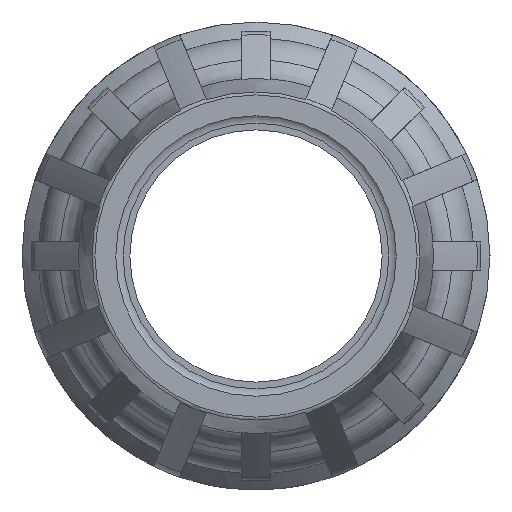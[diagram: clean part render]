
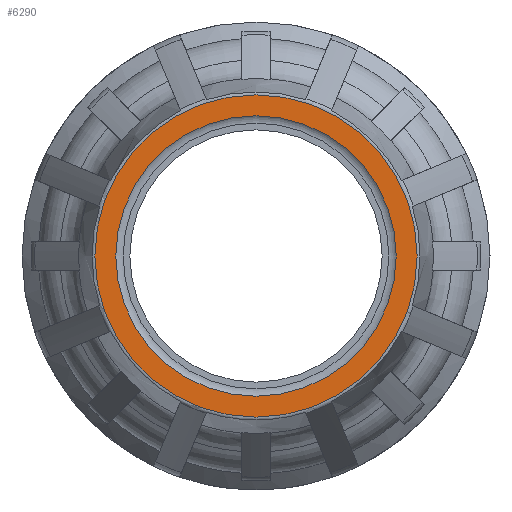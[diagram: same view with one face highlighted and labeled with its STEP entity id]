
A CAD part, left-side view. The second image highlights one B-rep face of the part: STEP entity #6290.
In plain terms, the highlighted planar face has unit normal (-1, 0, 0).
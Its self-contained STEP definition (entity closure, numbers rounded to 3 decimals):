
#90=PLANE('',#6960);
#2792=ORIENTED_EDGE('',*,*,#3977,.F.);
#2793=ORIENTED_EDGE('',*,*,#3994,.F.);
#3977=EDGE_CURVE('',#4711,#4711,#5048,.T.);
#3994=EDGE_CURVE('',#4712,#4712,#5065,.F.);
#4711=VERTEX_POINT('',#11957);
#4712=VERTEX_POINT('',#11992);
#5048=CIRCLE('',#6927,37.359);
#5065=CIRCLE('',#6961,32.5);
#5419=EDGE_LOOP('',(#2792));
#5420=EDGE_LOOP('',(#2793));
#5827=FACE_BOUND('',#5419,.T.);
#5828=FACE_BOUND('',#5420,.T.);
#6290=ADVANCED_FACE('',(#5827,#5828),#90,.F.);
#6927=AXIS2_PLACEMENT_3D('',#11956,#8311,#8312);
#6960=AXIS2_PLACEMENT_3D('',#11990,#8377,#8378);
#6961=AXIS2_PLACEMENT_3D('',#11991,#8379,#8380);
#8311=DIRECTION('',(1.,0.,0.));
#8312=DIRECTION('',(0.,0.,-1.));
#8377=DIRECTION('',(1.,0.,0.));
#8378=DIRECTION('',(0.,0.,-1.));
#8379=DIRECTION('',(1.,0.,0.));
#8380=DIRECTION('',(0.,0.,-1.));
#11956=CARTESIAN_POINT('',(0.,0.,0.));
#11957=CARTESIAN_POINT('',(0.,0.,-37.359));
#11990=CARTESIAN_POINT('',(0.,0.,0.));
#11991=CARTESIAN_POINT('',(0.,0.,0.));
#11992=CARTESIAN_POINT('',(0.,0.,-32.5));
